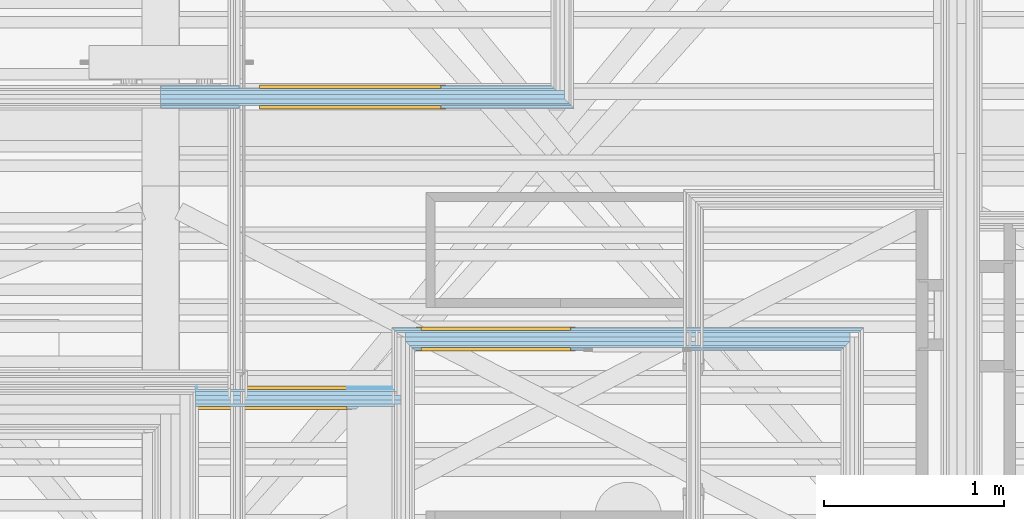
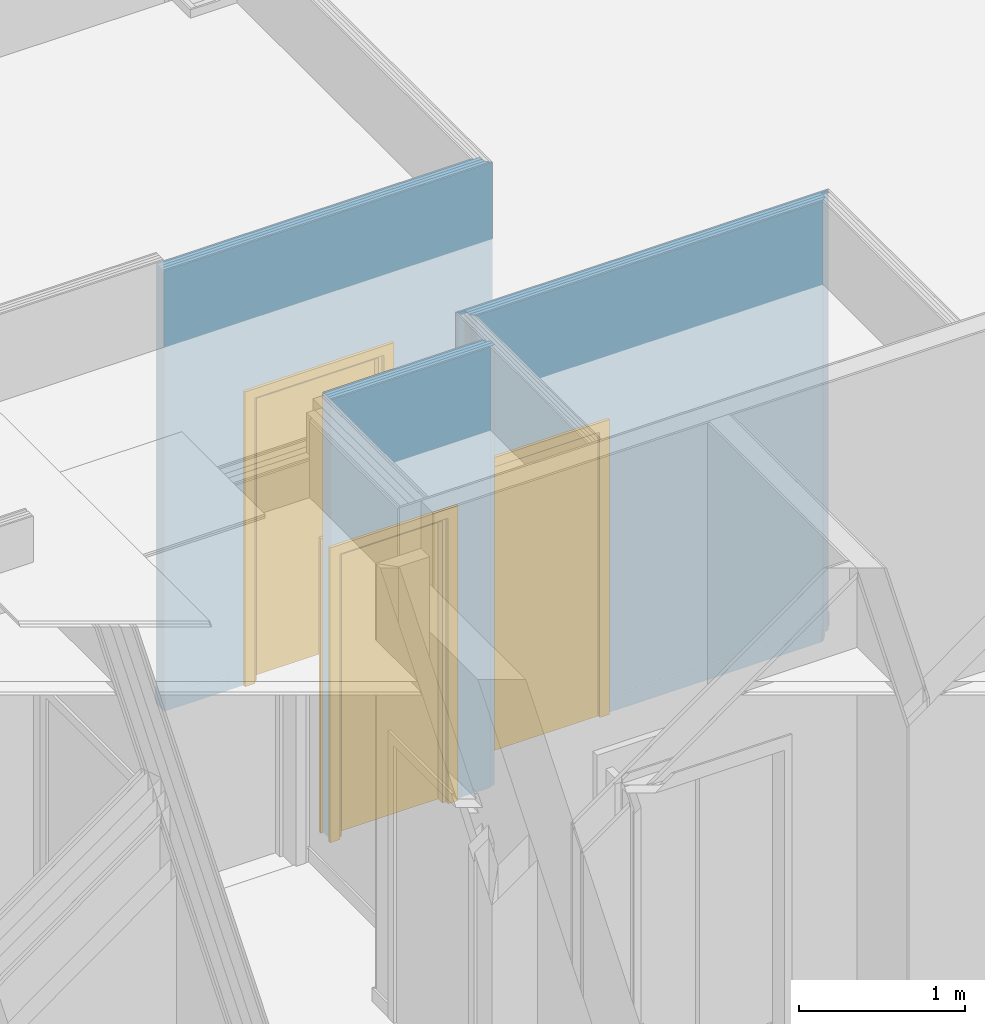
# One storey, part 103 of 183: 3 doors, 3 openings, 3 elements without a shape of their own, plus 21 elements that do not belong to this part.
"""IFC2X3 building model written with IfcOpenShell, lengths in metres."""

from ifc_helpers import new_model, entity, si_unit, converted_unit, derived_unit, money_unit, direction, frame, frame_2d, origin_with_axes, place, context, subcontext, project, spatial, polyline, rectangle, outline, extrude, faceted_brep, material, type_object, element, fill, aggregate, save


model = new_model("IFC2X3")

# Units and contexts
model_context = context("Model", 3, precision=1e-05, world=origin_with_axes(), true_north=direction((0.0, 1.0)))
body_context = subcontext(model_context, "Body", "Model", "MODEL_VIEW", scale=1.0)
ifc_project = project(units=[si_unit("LENGTHUNIT", "METRE"), si_unit("AREAUNIT", "SQUARE_METRE"), si_unit("VOLUMEUNIT", "CUBIC_METRE"), si_unit("ABSORBEDDOSEUNIT", "GRAY"), si_unit("AMOUNTOFSUBSTANCEUNIT", "MOLE"), si_unit("DOSEEQUIVALENTUNIT", "SIEVERT"), si_unit("ELECTRICCAPACITANCEUNIT", "FARAD"), si_unit("ELECTRICCHARGEUNIT", "COULOMB"), si_unit("ELECTRICCONDUCTANCEUNIT", "SIEMENS"), si_unit("ELECTRICCURRENTUNIT", "AMPERE"), si_unit("ELECTRICRESISTANCEUNIT", "OHM"), si_unit("ELECTRICVOLTAGEUNIT", "VOLT"), si_unit("ENERGYUNIT", "JOULE"), si_unit("FORCEUNIT", "NEWTON"), si_unit("FREQUENCYUNIT", "HERTZ"), si_unit("ILLUMINANCEUNIT", "LUX"), si_unit("INDUCTANCEUNIT", "HENRY"), si_unit("LUMINOUSFLUXUNIT", "LUMEN"), si_unit("LUMINOUSINTENSITYUNIT", "CANDELA"), si_unit("MAGNETICFLUXDENSITYUNIT", "TESLA"), si_unit("MAGNETICFLUXUNIT", "WEBER"), si_unit("MASSUNIT", "GRAM"), converted_unit("PLANEANGLEUNIT", "degree", entity("IfcReal", 0.0174532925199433), si_unit("PLANEANGLEUNIT", "RADIAN"), dimensions=[0, 0, 0, 0, 0, 0, 0]), si_unit("POWERUNIT", "WATT"), si_unit("PRESSUREUNIT", "PASCAL"), si_unit("RADIOACTIVITYUNIT", "BECQUEREL"), si_unit("SOLIDANGLEUNIT", "STERADIAN"), si_unit("THERMODYNAMICTEMPERATUREUNIT", "KELVIN"), si_unit("TIMEUNIT", "SECOND"), derived_unit("ACCELERATIONUNIT", [(si_unit("LENGTHUNIT", "METRE"), 1), (si_unit("TIMEUNIT", "SECOND"), -2)]), derived_unit("ANGULARVELOCITYUNIT", [(converted_unit("PLANEANGLEUNIT", "degree", entity("IfcReal", 0.0174532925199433), si_unit("PLANEANGLEUNIT", "RADIAN"), dimensions=[0, 0, 0, 0, 0, 0, 0]), 1), (si_unit("TIMEUNIT", "SECOND"), -1)]), derived_unit("CURVATUREUNIT", [(converted_unit("PLANEANGLEUNIT", "degree", entity("IfcReal", 0.0174532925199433), si_unit("PLANEANGLEUNIT", "RADIAN"), dimensions=[0, 0, 0, 0, 0, 0, 0]), 1), (si_unit("LENGTHUNIT", "METRE"), -1)]), derived_unit("DYNAMICVISCOSITYUNIT", [(si_unit("PRESSUREUNIT", "PASCAL"), 1), (si_unit("TIMEUNIT", "SECOND"), 1)]), derived_unit("HEATFLUXDENSITYUNIT", [(si_unit("POWERUNIT", "WATT"), 1), (si_unit("LENGTHUNIT", "METRE"), -2)]), derived_unit("HEATINGVALUEUNIT", [(si_unit("ENERGYUNIT", "JOULE"), 1), (si_unit("MASSUNIT", "GRAM"), -1)]), derived_unit("INTEGERCOUNTRATEUNIT", [(si_unit("TIMEUNIT", "SECOND"), -1)]), derived_unit("IONCONCENTRATIONUNIT", [(si_unit("MASSUNIT", "GRAM"), 1), (si_unit("VOLUMEUNIT", "CUBIC_METRE"), -1)]), derived_unit("ISOTHERMALMOISTURECAPACITYUNIT", [(si_unit("VOLUMEUNIT", "CUBIC_METRE"), 1), (si_unit("MASSUNIT", "GRAM"), -1)]), derived_unit("KINEMATICVISCOSITYUNIT", [(si_unit("AREAUNIT", "SQUARE_METRE"), 1), (si_unit("TIMEUNIT", "SECOND"), -1)]), derived_unit("LINEARFORCEUNIT", [(si_unit("FORCEUNIT", "NEWTON"), 1), (si_unit("LENGTHUNIT", "METRE"), -1)]), derived_unit("LINEARMOMENTUNIT", [(si_unit("FORCEUNIT", "NEWTON"), 1), (si_unit("LENGTHUNIT", "METRE"), -1)]), derived_unit("LINEARSTIFFNESSUNIT", [(si_unit("FORCEUNIT", "NEWTON"), 1), (si_unit("LENGTHUNIT", "METRE"), -1)]), derived_unit("LINEARVELOCITYUNIT", [(si_unit("LENGTHUNIT", "METRE"), 1), (si_unit("TIMEUNIT", "SECOND"), -1)]), derived_unit("LUMINOUSINTENSITYDISTRIBUTIONUNIT", [(si_unit("LUMINOUSINTENSITYUNIT", "CANDELA"), 1), (si_unit("LUMINOUSFLUXUNIT", "LUMEN"), -1)]), derived_unit("MASSDENSITYUNIT", [(si_unit("MASSUNIT", "GRAM"), 1), (si_unit("VOLUMEUNIT", "CUBIC_METRE"), -1)]), derived_unit("MASSFLOWRATEUNIT", [(si_unit("MASSUNIT", "GRAM"), 1), (si_unit("TIMEUNIT", "SECOND"), -1)]), derived_unit("MASSPERLENGTHUNIT", [(si_unit("MASSUNIT", "GRAM"), 1), (si_unit("LENGTHUNIT", "METRE"), -1)]), derived_unit("MODULUSOFELASTICITYUNIT", [(si_unit("FORCEUNIT", "NEWTON"), 1), (si_unit("AREAUNIT", "SQUARE_METRE"), -1)]), derived_unit("MODULUSOFLINEARSUBGRADEREACTIONUNIT", [(si_unit("FORCEUNIT", "NEWTON"), 1), (si_unit("LENGTHUNIT", "METRE"), -2)]), derived_unit("MODULUSOFROTATIONALSUBGRADEREACTIONUNIT", [(si_unit("FORCEUNIT", "NEWTON"), 1), (si_unit("LENGTHUNIT", "METRE"), 1)]), derived_unit("MODULUSOFSUBGRADEREACTIONUNIT", [(si_unit("FORCEUNIT", "NEWTON"), 1), (si_unit("VOLUMEUNIT", "CUBIC_METRE"), -1)]), derived_unit("MOISTUREDIFFUSIVITYUNIT", [(si_unit("VOLUMEUNIT", "CUBIC_METRE"), 1), (si_unit("TIMEUNIT", "SECOND"), -1)]), derived_unit("MOLECULARWEIGHTUNIT", [(si_unit("MASSUNIT", "GRAM"), 1), (si_unit("AMOUNTOFSUBSTANCEUNIT", "MOLE"), -1)]), derived_unit("PLANARFORCEUNIT", [(si_unit("FORCEUNIT", "NEWTON"), 1), (si_unit("LENGTHUNIT", "METRE"), -2)]), derived_unit("ROTATIONALFREQUENCYUNIT", [(si_unit("TIMEUNIT", "SECOND"), -1)]), derived_unit("ROTATIONALMASSUNIT", [(si_unit("MASSUNIT", "GRAM"), 1), (si_unit("LENGTHUNIT", "METRE"), 2)]), derived_unit("ROTATIONALSTIFFNESSUNIT", [(si_unit("FORCEUNIT", "NEWTON"), 1), (si_unit("LENGTHUNIT", "METRE"), 1), (converted_unit("PLANEANGLEUNIT", "degree", entity("IfcReal", 0.0174532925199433), si_unit("PLANEANGLEUNIT", "RADIAN"), dimensions=[0, 0, 0, 0, 0, 0, 0]), -1)]), derived_unit("SECTIONAREAINTEGRALUNIT", [(si_unit("LENGTHUNIT", "METRE"), 5)]), derived_unit("SECTIONMODULUSUNIT", [(si_unit("LENGTHUNIT", "METRE"), 3)]), derived_unit("SHEARMODULUSUNIT", [(si_unit("FORCEUNIT", "NEWTON"), 1), (si_unit("AREAUNIT", "SQUARE_METRE"), -1)]), derived_unit("SOUNDPOWERUNIT", [(si_unit("ENERGYUNIT", "JOULE"), 1), (si_unit("TIMEUNIT", "SECOND"), -1)]), derived_unit("SPECIFICHEATCAPACITYUNIT", [(si_unit("FORCEUNIT", "NEWTON"), 1), (si_unit("MASSUNIT", "GRAM"), -1), (si_unit("THERMODYNAMICTEMPERATUREUNIT", "KELVIN"), -1)]), derived_unit("TEMPERATUREGRADIENTUNIT", [(si_unit("THERMODYNAMICTEMPERATUREUNIT", "KELVIN"), 1), (si_unit("LENGTHUNIT", "METRE"), -1)]), derived_unit("THERMALADMITTANCEUNIT", [(si_unit("POWERUNIT", "WATT"), 1), (si_unit("AREAUNIT", "SQUARE_METRE"), -1), (si_unit("THERMODYNAMICTEMPERATUREUNIT", "KELVIN"), -1)]), derived_unit("THERMALCONDUCTANCEUNIT", [(si_unit("POWERUNIT", "WATT"), 1), (si_unit("LENGTHUNIT", "METRE"), -1), (si_unit("THERMODYNAMICTEMPERATUREUNIT", "KELVIN"), -1)]), derived_unit("THERMALEXPANSIONCOEFFICIENTUNIT", [(si_unit("THERMODYNAMICTEMPERATUREUNIT", "KELVIN"), -1)]), derived_unit("THERMALRESISTANCEUNIT", [(si_unit("AREAUNIT", "SQUARE_METRE"), 1), (si_unit("POWERUNIT", "WATT"), -1)]), derived_unit("THERMALTRANSMITTANCEUNIT", [(si_unit("POWERUNIT", "WATT"), 1), (si_unit("AREAUNIT", "SQUARE_METRE"), -1), (si_unit("THERMODYNAMICTEMPERATUREUNIT", "KELVIN"), -1)]), derived_unit("TORQUEUNIT", [(si_unit("FORCEUNIT", "NEWTON"), 1), (si_unit("LENGTHUNIT", "METRE"), 1)]), derived_unit("VAPORPERMEABILITYUNIT", [(si_unit("MASSUNIT", "GRAM"), 1), (si_unit("TIMEUNIT", "SECOND"), -1)]), derived_unit("VOLUMETRICFLOWRATEUNIT", [(si_unit("VOLUMEUNIT", "CUBIC_METRE"), 1), (si_unit("TIMEUNIT", "SECOND"), -1)]), derived_unit("WARPINGCONSTANTUNIT", [(si_unit("LENGTHUNIT", "METRE"), 6)]), derived_unit("WARPINGMOMENTUNIT", [(si_unit("FORCEUNIT", "NEWTON"), 1), (si_unit("LENGTHUNIT", "METRE"), 2)]), money_unit("GBP")], contexts=[model_context])

# Site, building, storey, space
site_placement = place(None, origin_with_axes())
site = spatial("IfcSite", under=ifc_project, at=site_placement, Name="Site", CompositionType="ELEMENT")
building_placement = place(site_placement, origin_with_axes())
building = spatial("IfcBuilding", under=site, at=building_placement, Name="Building01", CompositionType="ELEMENT")
storey_placement = place(building_placement, frame((0.0, 0.0, 5.15), z_axis=(0.0, 0.0, 1.0), x_axis=(1.0, 0.0, 0.0)))
storey = spatial("IfcBuildingStorey", under=building, at=storey_placement, Name="1F", CompositionType="ELEMENT", Elevation=5.15)
space_placement = place(storey_placement, frame((7.289669, 14.582, 0.017975), z_axis=(0.0, 0.0, 1.0), x_axis=(0.0, -1.0, 0.0)))
space = spatial("IfcSpace", under=storey, at=space_placement, Name="08", CompositionType="ELEMENT", InteriorOrExteriorSpace="NOTDEFINED")

# Door
ifc_material_1 = material(Name="A_BSUK_Doors")
door_style = type_object("IfcDoorStyle", Name="A-Doors-SingleFlush", ConstructionType="USERDEFINED", OperationType="SINGLE_SWING_RIGHT", ParameterTakesPrecedence=False, Sizeable=False)
wall_3_placement = place(storey_placement, frame((10.428871, 10.052704, 0.0), z_axis=(0.0, 0.0, 1.0), x_axis=(-1.0, 0.0, 0.0)))
opening_3_placement = place(wall_3_placement, frame((0.3, -0.05, 0.0), z_axis=(0.0, 0.0, 1.0), x_axis=(1.0, 0.0, 0.0)))
door_1_placement = place(opening_3_placement, frame((0.792, 0.015, 0.0), z_axis=(0.0, 0.0, 1.0), x_axis=(-1.0, 0.0, 0.0)))
door_1 = element("IfcDoor", 1, at=door_1_placement, inside=space, type_object=door_style, material=ifc_material_1, Name="1.24", ObjectType="A-Doors-SingleFlush", OverallHeight=2.142, OverallWidth=0.834, context=body_context, shape_type="Brep", body=[
    faceted_brep([(0.75, -0.114, 0.0), (0.819, -0.114, 0.0), (0.819, -0.114, 2.169), (-0.069, -0.114, 2.169), (-0.069, -0.114, 0.0), (0.0, -0.114, 0.0), (0.0, -0.114, 2.1), (0.75, -0.114, 2.1), (-0.069, -0.095, 0.0), (-0.069, -0.095, 2.169), (0.819, -0.095, 2.169), (0.819, -0.095, 0.0), (0.75, 0.019, 0.0), (0.819, 0.019, 0.0), (0.819, 0.0, 0.0), (0.792, 0.0, 0.0), (0.792, -0.095, 0.0), (0.75, 0.019, 2.1), (0.0, 0.019, 2.1), (0.0, 0.019, 0.0), (-0.069, 0.019, 0.0), (-0.069, 0.019, 2.169), (0.819, 0.019, 2.169), (0.819, 0.0, 2.169), (0.792, -0.095, 2.142), (0.792, 0.0, 2.142), (-0.042, -0.095, 2.142), (-0.042, 0.0, 2.142), (-0.042, -0.095, 0.0), (-0.042, 0.0, 0.0), (-0.069, 0.0, 2.169), (-0.069, 0.0, 0.0)], [[[0, 1, 2, 3, 4, 5, 6, 7]], [[8, 4, 3, 9]], [[10, 2, 1, 11]], [[9, 3, 2, 10]], [[12, 13, 14, 15, 16, 11, 1, 0]], [[7, 17, 12, 0]], [[6, 18, 17, 7]], [[18, 19, 20, 21, 22, 13, 12, 17]], [[5, 19, 18, 6]], [[13, 22, 23, 14]], [[24, 16, 15, 25]], [[26, 24, 25, 27]], [[11, 16, 24, 26, 28, 8, 9, 10]], [[27, 29, 28, 26]], [[25, 15, 14, 23, 30, 31, 29, 27]], [[5, 4, 8, 28, 29, 31, 20, 19]], [[30, 21, 20, 31]], [[23, 22, 21, 30]]]),
    faceted_brep([(0.0, -0.09, 2.1), (0.0, -0.04, 2.1), (0.0, -0.04, 0.0), (0.0, -0.09, 0.0), (0.725, -0.09, 0.0), (0.75, -0.09, 0.0), (0.75, -0.09, 2.1), (0.025, -0.09, 0.0), (0.025, -0.09, 2.075), (0.725, -0.09, 2.075), (0.725, -0.04, 0.0), (0.75, -0.04, 0.0), (0.75, -0.04, 2.1), (0.025, -0.04, 2.075), (0.025, -0.04, 0.0), (0.725, -0.04, 2.075)], [[[0, 1, 2, 3]], [[4, 5, 6, 0, 3, 7, 8, 9]], [[10, 11, 5, 4]], [[6, 12, 1, 0]], [[5, 11, 12, 6]], [[13, 14, 2, 1, 12, 11, 10, 15]], [[7, 14, 13, 8]], [[7, 3, 2, 14]], [[9, 15, 10, 4]], [[8, 13, 15, 9]]]),
    faceted_brep([(0.75, -0.04, 0.0), (0.75, 0.0, 0.0), (0.75, 0.0, 2.1), (0.75, -0.04, 2.1), (0.0, -0.04, 2.1), (0.0, 0.0, 2.1), (0.0, 0.0, 0.0), (0.0, -0.04, 0.0)], [[[0, 1, 2, 3]], [[4, 5, 6, 7]], [[7, 6, 1, 0]], [[3, 4, 7, 0]], [[3, 2, 5, 4]], [[1, 6, 5, 2]]]),
])

wall_1_placement = place(storey_placement, frame((10.453871, 10.355, 0.0), z_axis=(0.0, 0.0, 1.0), x_axis=(1.0, 0.0, 0.0)))
opening_1_placement = place(wall_1_placement, frame((0.086065, -0.05, 0.0), z_axis=(0.0, 0.0, 1.0), x_axis=(1.0, 0.0, 0.0)))
door_2_placement = place(opening_1_placement, frame((0.792, 0.015, 0.0), z_axis=(0.0, 0.0, 1.0), x_axis=(-1.0, 0.0, 0.0)))
door_2 = element("IfcDoor", 2, at=door_2_placement, inside=space, type_object=door_style, material=ifc_material_1, Name="1.26", ObjectType="A-Doors-SingleFlush", OverallHeight=2.142, OverallWidth=0.834, context=body_context, shape_type="Brep", body=[
    faceted_brep([(0.75, -0.114, 0.0), (0.819, -0.114, 0.0), (0.819, -0.114, 2.169), (-0.069, -0.114, 2.169), (-0.069, -0.114, 0.0), (0.0, -0.114, 0.0), (0.0, -0.114, 2.1), (0.75, -0.114, 2.1), (-0.069, -0.095, 0.0), (-0.069, -0.095, 2.169), (0.819, -0.095, 2.169), (0.819, -0.095, 0.0), (0.75, 0.019, 0.0), (0.819, 0.019, 0.0), (0.819, 0.0, 0.0), (0.792, 0.0, 0.0), (0.792, -0.095, 0.0), (0.75, 0.019, 2.1), (0.0, 0.019, 2.1), (0.0, 0.019, 0.0), (-0.069, 0.019, 0.0), (-0.069, 0.019, 2.169), (0.819, 0.019, 2.169), (0.819, 0.0, 2.169), (0.792, -0.095, 2.142), (0.792, 0.0, 2.142), (-0.042, -0.095, 2.142), (-0.042, 0.0, 2.142), (-0.042, -0.095, 0.0), (-0.042, 0.0, 0.0), (-0.069, 0.0, 2.169), (-0.069, 0.0, 0.0)], [[[0, 1, 2, 3, 4, 5, 6, 7]], [[8, 4, 3, 9]], [[10, 2, 1, 11]], [[9, 3, 2, 10]], [[12, 13, 14, 15, 16, 11, 1, 0]], [[7, 17, 12, 0]], [[6, 18, 17, 7]], [[18, 19, 20, 21, 22, 13, 12, 17]], [[5, 19, 18, 6]], [[13, 22, 23, 14]], [[24, 16, 15, 25]], [[26, 24, 25, 27]], [[11, 16, 24, 26, 28, 8, 9, 10]], [[27, 29, 28, 26]], [[25, 15, 14, 23, 30, 31, 29, 27]], [[5, 4, 8, 28, 29, 31, 20, 19]], [[30, 21, 20, 31]], [[23, 22, 21, 30]]]),
    faceted_brep([(0.0, -0.09, 2.1), (0.0, -0.04, 2.1), (0.0, -0.04, 0.0), (0.0, -0.09, 0.0), (0.725, -0.09, 0.0), (0.75, -0.09, 0.0), (0.75, -0.09, 2.1), (0.025, -0.09, 0.0), (0.025, -0.09, 2.075), (0.725, -0.09, 2.075), (0.725, -0.04, 0.0), (0.75, -0.04, 0.0), (0.75, -0.04, 2.1), (0.025, -0.04, 2.075), (0.025, -0.04, 0.0), (0.725, -0.04, 2.075)], [[[0, 1, 2, 3]], [[4, 5, 6, 0, 3, 7, 8, 9]], [[10, 11, 5, 4]], [[6, 12, 1, 0]], [[5, 11, 12, 6]], [[13, 14, 2, 1, 12, 11, 10, 15]], [[7, 14, 13, 8]], [[7, 3, 2, 14]], [[9, 15, 10, 4]], [[8, 13, 15, 9]]]),
    faceted_brep([(0.75, -0.04, 0.0), (0.75, 0.0, 0.0), (0.75, 0.0, 2.1), (0.75, -0.04, 2.1), (0.0, -0.04, 2.1), (0.0, 0.0, 2.1), (0.0, 0.0, 0.0), (0.0, -0.04, 0.0)], [[[0, 1, 2, 3]], [[4, 5, 6, 7]], [[7, 6, 1, 0]], [[3, 4, 7, 0]], [[3, 2, 5, 4]], [[1, 6, 5, 2]]]),
])

wall_2_placement = place(storey_placement, frame((9.09, 11.703124, 0.0), z_axis=(0.0, 0.0, 1.0), x_axis=(1.0, 0.0, 0.0)))
opening_2_placement = place(wall_2_placement, frame((0.579, -0.05, -0.015), z_axis=(0.0, 0.0, 1.0), x_axis=(1.0, 0.0, 0.0)))
door_3_placement = place(opening_2_placement, frame((0.042, 0.11, 0.015), z_axis=(0.0, 0.0, 1.0), x_axis=(1.0, 0.0, 0.0)))
door_3 = element("IfcDoor", 3, at=door_3_placement, inside=space, type_object=door_style, material=ifc_material_1, Name="1.25", ObjectType="A-Doors-SingleFlush", OverallHeight=2.142, OverallWidth=1.127117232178, context=body_context, shape_type="Brep", body=[
    faceted_brep([(0.9, -0.114, 0.0), (0.969, -0.114, 0.0), (0.969, -0.114, 2.169), (-0.069, -0.114, 2.169), (-0.069, -0.114, 0.0), (0.0, -0.114, 0.0), (0.0, -0.114, 2.1), (0.9, -0.114, 2.1), (-0.069, -0.095, 0.0), (-0.069, -0.095, 2.169), (0.969, -0.095, 2.169), (0.969, -0.095, 0.0), (0.9, 0.019, 0.0), (0.969, 0.019, 0.0), (0.969, 0.0, 0.0), (0.942, 0.0, 0.0), (0.942, -0.095, 0.0), (0.9, 0.019, 2.1), (0.0, 0.019, 2.1), (0.0, 0.019, 0.0), (-0.069, 0.019, 0.0), (-0.069, 0.019, 2.169), (0.969, 0.019, 2.169), (0.969, 0.0, 2.169), (0.942, -0.095, 2.142), (0.942, 0.0, 2.142), (-0.042, -0.095, 2.142), (-0.042, 0.0, 2.142), (-0.042, -0.095, 0.0), (-0.042, 0.0, 0.0), (-0.069, 0.0, 2.169), (-0.069, 0.0, 0.0)], [[[0, 1, 2, 3, 4, 5, 6, 7]], [[8, 4, 3, 9]], [[10, 2, 1, 11]], [[9, 3, 2, 10]], [[12, 13, 14, 15, 16, 11, 1, 0]], [[7, 17, 12, 0]], [[6, 18, 17, 7]], [[18, 19, 20, 21, 22, 13, 12, 17]], [[5, 19, 18, 6]], [[13, 22, 23, 14]], [[24, 16, 15, 25]], [[26, 24, 25, 27]], [[11, 16, 24, 26, 28, 8, 9, 10]], [[27, 29, 28, 26]], [[25, 15, 14, 23, 30, 31, 29, 27]], [[5, 4, 8, 28, 29, 31, 20, 19]], [[30, 21, 20, 31]], [[23, 22, 21, 30]]]),
    faceted_brep([(0.0, -0.09, 2.1), (0.0, -0.04, 2.1), (0.0, -0.04, 0.0), (0.0, -0.09, 0.0), (0.875, -0.09, 0.0), (0.9, -0.09, 0.0), (0.9, -0.09, 2.1), (0.025, -0.09, 0.0), (0.025, -0.09, 2.075), (0.875, -0.09, 2.075), (0.875, -0.04, 0.0), (0.9, -0.04, 0.0), (0.9, -0.04, 2.1), (0.025, -0.04, 2.075), (0.025, -0.04, 0.0), (0.875, -0.04, 2.075)], [[[0, 1, 2, 3]], [[4, 5, 6, 0, 3, 7, 8, 9]], [[10, 11, 5, 4]], [[6, 12, 1, 0]], [[5, 11, 12, 6]], [[13, 14, 2, 1, 12, 11, 10, 15]], [[7, 14, 13, 8]], [[7, 3, 2, 14]], [[9, 15, 10, 4]], [[8, 13, 15, 9]]]),
    faceted_brep([(0.9, -0.04, 0.0), (0.9, 0.0, 0.0), (0.9, 0.0, 2.1), (0.9, -0.04, 2.1), (0.0, -0.04, 2.1), (0.0, 0.0, 2.1), (0.0, 0.0, 0.0), (0.0, -0.04, 0.0)], [[[0, 1, 2, 3]], [[4, 5, 6, 7]], [[7, 6, 1, 0]], [[3, 4, 7, 0]], [[3, 2, 5, 4]], [[1, 6, 5, 2]]]),
])

# Wall, opening
wall_type = type_object("IfcWallType", Name="SHE_A-Walls_Type05a_Partition_95mm_tall", PredefinedType="NOTDEFINED")
wall_1 = element("IfcWall", 4, at=wall_1_placement, inside=storey, type_object=wall_type, Name="5A", ObjectType="SHE_A-Walls_Type05a_Partition_95mm_tall")
opening_1 = element("IfcOpeningElement", 5, at=opening_1_placement, cuts=wall_1, Name="Opening", ObjectType="Opening", context=body_context, shape_type="SweptSolid", body=[
    extrude(rectangle(XDim=0.834, YDim=2.142, at=frame_2d((-0.417, 1.071), x_axis=(1.0, 0.0))), frame((0.0, 0.0, 0.0), z_axis=(0.0, 1.0, 0.0), x_axis=(-1.0, 0.0, 0.0)), (0.0, 0.0, 1.0), 0.125),
])

fill(opening_1, door_2)

# Building element part
ifc_material_2 = material(Name="A_BSUK_Walls_Timber")
placement_1 = place(wall_1_placement, origin_with_axes())
building_element_part_1 = element("IfcBuildingElementPart", 6, at=placement_1, material=ifc_material_2, Name="1", context=body_context, shape_type="SweptSolid", body=[
    extrude(outline(polyline([(2.439714, -0.035), (0.035, -0.035), (0.05, -0.05), (2.424714, -0.05), (2.439714, -0.035)])), frame((0.0, 0.0, 0.015), z_axis=(0.0, 0.0, 1.0), x_axis=(1.0, 0.0, 0.0)), (0.0, 0.0, 1.0), 0.1),
])

ifc_material_3 = material(Name="A_BSUK_WallInternal_Finishes_Plasterboard")
building_element_part_2 = element("IfcBuildingElementPart", 7, at=placement_1, material=ifc_material_3, Name="2", context=body_context, shape_type="SweptSolid", body=[
    extrude(outline(polyline([(2.451714, -0.023), (0.023, -0.023), (0.035, -0.035), (2.439714, -0.035), (2.451714, -0.023)])), origin_with_axes(), (0.0, 0.0, 1.0), 3.24),
])

ifc_material_4 = material(Name="Air Cavity")
building_element_part_3 = element("IfcBuildingElementPart", 8, at=placement_1, material=ifc_material_4, Name="3", context=body_context, shape_type="SweptSolid", body=[
    extrude(outline(polyline([(2.474714, 0.0), (0.0, 0.0), (0.023, -0.023), (2.451714, -0.023), (2.474714, 0.0)])), origin_with_axes(), (0.0, 0.0, 1.0), 3.24),
])

ifc_material_5 = material(Name="A_BSUK_Insulation")
building_element_part_4 = element("IfcBuildingElementPart", 9, at=placement_1, material=ifc_material_5, Name="4", context=body_context, shape_type="SweptSolid", body=[
    extrude(rectangle(XDim=2.474714, YDim=0.025, at=frame_2d((1.237357, 0.0125), x_axis=(-1.0, 0.0))), origin_with_axes(), (0.0, 0.0, 1.0), 3.24),
])

building_element_part_5 = element("IfcBuildingElementPart", 10, at=placement_1, material=ifc_material_4, Name="5", context=body_context, shape_type="SweptSolid", body=[
    extrude(rectangle(XDim=2.474714, YDim=0.023, at=frame_2d((1.237357, 0.0365), x_axis=(-1.0, 0.0))), origin_with_axes(), (0.0, 0.0, 1.0), 3.24),
])

building_element_part_6 = element("IfcBuildingElementPart", 11, at=placement_1, material=ifc_material_3, Name="6", context=body_context, shape_type="SweptSolid", body=[
    extrude(outline(polyline([(2.534714, 0.06), (-0.06, 0.06), (-0.048, 0.048), (2.522714, 0.048), (2.534714, 0.06)])), origin_with_axes(), (0.0, 0.0, 1.0), 3.24),
])

building_element_part_7 = element("IfcBuildingElementPart", 12, at=placement_1, material=ifc_material_2, Name="7", context=body_context, shape_type="SweptSolid", body=[
    extrude(outline(polyline([(2.549714, 0.075), (-0.075, 0.075), (-0.06, 0.06), (2.534714, 0.06), (2.549714, 0.075)])), frame((0.0, 0.0, 0.015), z_axis=(0.0, 0.0, 1.0), x_axis=(1.0, 0.0, 0.0)), (0.0, 0.0, 1.0), 0.1),
])

aggregate(wall_1, [building_element_part_1, building_element_part_2, building_element_part_3, building_element_part_4, building_element_part_5, building_element_part_6, building_element_part_7])

# Wall, opening
wall_2 = element("IfcWall", 13, at=wall_2_placement, inside=storey, type_object=wall_type, Name="5A", ObjectType="SHE_A-Walls_Type05a_Partition_95mm_tall")
opening_2 = element("IfcOpeningElement", 14, at=opening_2_placement, cuts=wall_2, Name="Opening", ObjectType="Opening", context=body_context, shape_type="SweptSolid", body=[
    extrude(outline(polyline([(-0.042, 0.0), (-0.042, 0.015), (0.0, 0.015), (0.0, 2.157), (-0.984, 2.157), (-0.984, 0.015), (-0.840883, 0.015), (-0.840883, 0.0), (-0.042, 0.0)])), frame((0.0, 0.0, 0.0), z_axis=(0.0, 1.0, 0.0), x_axis=(-1.0, 0.0, 0.0)), (0.0, 0.0, 1.0), 0.125),
    extrude(outline(polyline([(-0.942, 0.015), (-0.942, 0.0), (-0.042, 0.0), (-0.042, 0.015), (0.0, 0.015), (0.0, 2.157), (-0.984, 2.157), (-0.984, 0.015), (-0.942, 0.015)])), frame((0.0, 0.015, 0.0), z_axis=(0.0, 1.0, 0.0), x_axis=(-1.0, 0.0, 0.0)), (0.0, 0.0, 1.0), 0.012),
    extrude(outline(polyline([(0.0, 2.142), (0.0, 2.157), (-0.984, 2.157), (-0.984, 0.015), (-0.840883, 0.015), (-0.840883, 0.0), (0.143117, 0.0), (0.143117, 2.142), (0.0, 2.142)])), frame((0.0, 0.0, 0.0), z_axis=(0.0, 1.0, 0.0), x_axis=(-1.0, 0.0, 0.0)), (0.0, 0.0, 1.0), 0.015),
    extrude(outline(polyline([(-0.942, 0.015), (-0.942, 0.0), (-0.042, 0.0), (-0.042, 0.015), (0.0, 0.015), (0.0, 2.157), (-0.984, 2.157), (-0.984, 0.015), (-0.942, 0.015)])), frame((0.0, 0.027, 0.0), z_axis=(0.0, 1.0, 0.0), x_axis=(-1.0, 0.0, 0.0)), (0.0, 0.0, 1.0), 0.023),
    extrude(outline(polyline([(-0.942, 0.015), (-0.942, 0.0), (-0.042, 0.0), (-0.042, 0.015), (0.0, 0.015), (0.0, 2.157), (-0.984, 2.157), (-0.984, 0.015), (-0.942, 0.015)])), frame((0.0, 0.05, 0.0), z_axis=(0.0, 1.0, 0.0), x_axis=(-1.0, 0.0, 0.0)), (0.0, 0.0, 1.0), 0.025),
    extrude(outline(polyline([(-0.942, 0.015), (-0.942, 0.0), (-0.042, 0.0), (-0.042, 0.015), (0.0, 0.015), (0.0, 2.157), (-0.984, 2.157), (-0.984, 0.015), (-0.942, 0.015)])), frame((0.0, 0.075, 0.0), z_axis=(0.0, 1.0, 0.0), x_axis=(-1.0, 0.0, 0.0)), (0.0, 0.0, 1.0), 0.023),
    extrude(outline(polyline([(-0.942, 0.015), (-0.942, 0.0), (-0.042, 0.0), (-0.042, 0.015), (0.0, 0.015), (0.0, 2.157), (-0.984, 2.157), (-0.984, 0.015), (-0.942, 0.015)])), frame((0.0, 0.098, 0.0), z_axis=(0.0, 1.0, 0.0), x_axis=(-1.0, 0.0, 0.0)), (0.0, 0.0, 1.0), 0.012),
    extrude(outline(polyline([(-0.840883, 0.015), (-0.840883, 0.0), (0.143117, 0.0), (0.143117, 2.142), (0.0, 2.142), (0.0, 2.157), (-0.984, 2.157), (-0.984, 0.015), (-0.840883, 0.015)])), frame((0.0, 0.11, 0.0), z_axis=(0.0, 1.0, 0.0), x_axis=(-1.0, 0.0, 0.0)), (0.0, 0.0, 1.0), 0.015),
])

fill(opening_2, door_3)

# Building element part
placement_2 = place(wall_2_placement, origin_with_axes())
building_element_part_8 = element("IfcBuildingElementPart", 15, at=placement_2, material=ifc_material_2, Name="1", context=body_context, shape_type="SweptSolid", body=[
    extrude(outline(polyline([(2.285, -0.035), (0.0, -0.035), (0.0, -0.05), (2.3, -0.05), (2.285, -0.035)])), frame((0.0, 0.0, 0.015), z_axis=(0.0, 0.0, 1.0), x_axis=(1.0, 0.0, 0.0)), (0.0, 0.0, 1.0), 0.1),
])

building_element_part_9 = element("IfcBuildingElementPart", 16, at=placement_2, material=ifc_material_3, Name="2", context=body_context, shape_type="SweptSolid", body=[
    extrude(outline(polyline([(2.273, -0.023), (0.0, -0.023), (0.0, -0.035), (2.285, -0.035), (2.273, -0.023)])), origin_with_axes(), (0.0, 0.0, 1.0), 3.24),
])

building_element_part_10 = element("IfcBuildingElementPart", 17, at=placement_2, material=ifc_material_4, Name="3", context=body_context, shape_type="SweptSolid", body=[
    extrude(outline(polyline([(2.25, 0.0), (0.0, 0.0), (0.0, -0.023), (2.273, -0.023), (2.25, 0.0)])), origin_with_axes(), (0.0, 0.0, 1.0), 3.24),
])

building_element_part_11 = element("IfcBuildingElementPart", 18, at=placement_2, material=ifc_material_5, Name="4", context=body_context, shape_type="SweptSolid", body=[
    extrude(rectangle(XDim=2.25, YDim=0.025, at=frame_2d((1.125, 0.0125), x_axis=(-1.0, 0.0))), origin_with_axes(), (0.0, 0.0, 1.0), 3.24),
])

building_element_part_12 = element("IfcBuildingElementPart", 19, at=placement_2, material=ifc_material_4, Name="5", context=body_context, shape_type="SweptSolid", body=[
    extrude(rectangle(XDim=2.25, YDim=0.023, at=frame_2d((1.125, 0.0365), x_axis=(-1.0, 0.0))), origin_with_axes(), (0.0, 0.0, 1.0), 3.24),
])

building_element_part_13 = element("IfcBuildingElementPart", 20, at=placement_2, material=ifc_material_3, Name="6", context=body_context, shape_type="SweptSolid", body=[
    extrude(outline(polyline([(2.19, 0.06), (0.0, 0.06), (0.0, 0.048), (2.202, 0.048), (2.19, 0.06)])), origin_with_axes(), (0.0, 0.0, 1.0), 3.24),
])

building_element_part_14 = element("IfcBuildingElementPart", 21, at=placement_2, material=ifc_material_2, Name="7", context=body_context, shape_type="SweptSolid", body=[
    extrude(outline(polyline([(2.175, 0.075), (0.0, 0.075), (0.0, 0.06), (2.19, 0.06), (2.175, 0.075)])), frame((0.0, 0.0, 0.015), z_axis=(0.0, 0.0, 1.0), x_axis=(1.0, 0.0, 0.0)), (0.0, 0.0, 1.0), 0.1),
])

aggregate(wall_2, [building_element_part_8, building_element_part_9, building_element_part_10, building_element_part_11, building_element_part_12, building_element_part_13, building_element_part_14])

# Wall, opening
wall_3 = element("IfcWall", 22, at=wall_3_placement, inside=storey, type_object=wall_type, Name="5A", ObjectType="SHE_A-Walls_Type05a_Partition_95mm_tall")
opening_3 = element("IfcOpeningElement", 23, at=opening_3_placement, cuts=wall_3, Name="Opening", ObjectType="Opening", context=body_context, shape_type="SweptSolid", body=[
    extrude(rectangle(XDim=0.834, YDim=2.142, at=frame_2d((-0.417, 1.071), x_axis=(1.0, 0.0))), frame((0.0, 0.0, 0.0), z_axis=(0.0, 1.0, 0.0), x_axis=(-1.0, 0.0, 0.0)), (0.0, 0.0, 1.0), 0.125),
])

fill(opening_3, door_1)

# Building element part
placement_3 = place(wall_3_placement, origin_with_axes())
building_element_part_15 = element("IfcBuildingElementPart", 24, at=placement_3, material=ifc_material_2, Name="1", context=body_context, shape_type="SweptSolid", body=[
    extrude(rectangle(XDim=0.015, YDim=1.093871, at=frame_2d((0.596935, -0.0425), x_axis=(0.0, -1.0))), frame((0.0, 0.0, 0.015), z_axis=(0.0, 0.0, 1.0), x_axis=(1.0, 0.0, 0.0)), (0.0, 0.0, 1.0), 0.1),
])

building_element_part_16 = element("IfcBuildingElementPart", 25, at=placement_3, material=ifc_material_3, Name="2", context=body_context, shape_type="SweptSolid", body=[
    extrude(rectangle(XDim=1.108871, YDim=0.012, at=frame_2d((0.589435, -0.029), x_axis=(-1.0, 0.0))), origin_with_axes(), (0.0, 0.0, 1.0), 3.24),
])

building_element_part_17 = element("IfcBuildingElementPart", 26, at=placement_3, material=ifc_material_4, Name="3", context=body_context, shape_type="SweptSolid", body=[
    extrude(rectangle(XDim=1.108871, YDim=0.023, at=frame_2d((0.589435, -0.0115), x_axis=(-1.0, 0.0))), origin_with_axes(), (0.0, 0.0, 1.0), 3.24),
])

building_element_part_18 = element("IfcBuildingElementPart", 27, at=placement_3, material=ifc_material_5, Name="4", context=body_context, shape_type="SweptSolid", body=[
    extrude(rectangle(XDim=1.143871, YDim=0.025, at=frame_2d((0.571935, 0.0125), x_axis=(-1.0, 0.0))), origin_with_axes(), (0.0, 0.0, 1.0), 3.24),
])

building_element_part_19 = element("IfcBuildingElementPart", 28, at=placement_3, material=ifc_material_4, Name="5", context=body_context, shape_type="SweptSolid", body=[
    extrude(rectangle(XDim=1.143871, YDim=0.023, at=frame_2d((0.571935, 0.0365), x_axis=(-1.0, 0.0))), origin_with_axes(), (0.0, 0.0, 1.0), 3.24),
])

building_element_part_20 = element("IfcBuildingElementPart", 29, at=placement_3, material=ifc_material_3, Name="6", context=body_context, shape_type="SweptSolid", body=[
    extrude(rectangle(XDim=1.108871, YDim=0.012, at=frame_2d((0.589435, 0.054), x_axis=(-1.0, 0.0))), origin_with_axes(), (0.0, 0.0, 1.0), 3.24),
])

building_element_part_21 = element("IfcBuildingElementPart", 30, at=placement_3, material=ifc_material_2, Name="7", context=body_context, shape_type="SweptSolid", body=[
    extrude(outline(polyline([(1.128871, 0.075), (0.25, 0.075), (0.235, 0.06), (1.128871, 0.06), (1.128871, 0.075)])), frame((0.0, 0.0, 0.015), z_axis=(0.0, 0.0, 1.0), x_axis=(1.0, 0.0, 0.0)), (0.0, 0.0, 1.0), 0.1),
])

aggregate(wall_3, [building_element_part_15, building_element_part_16, building_element_part_17, building_element_part_18, building_element_part_19, building_element_part_20, building_element_part_21])

save(model, "model.ifc")
